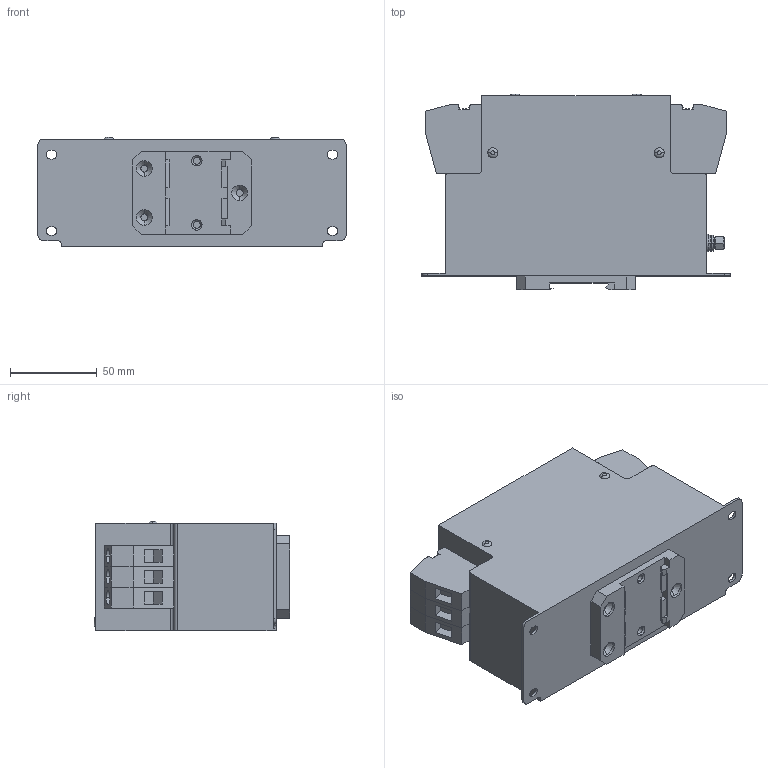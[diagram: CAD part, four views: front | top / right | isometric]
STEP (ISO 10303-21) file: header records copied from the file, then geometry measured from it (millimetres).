
FILE_DESCRIPTION (( 'STEP AP214' ), '1' );
FILE_NAME ('NF-50-BFG-CD(-LL).STEP', '2023-08-25T08:11:30', ( '' ), ( '' ), 'SwSTEP 2.0', 'SolidWorks 2021', '' );
FILE_SCHEMA (( 'AUTOMOTIVE_DESIGN' ));
Length unit declared in the file: millimetre
Products named in the file (7): hdfk_16_vp; HDFK_16; din125-1-a_5_3-140_hv_-_c4; NF-50-BFG-CD(-LL); NF-50-BFG_NF-4-50-BFG-CD; mutter_din_en_24034-m5-5; 625125
Assembly tree (12 placements, depth 3):
  NF-50-BFG-CD(-LL)
    NF-50-BFG_NF-4-50-BFG-CD
    HDFK_16  x3
      hdfk_16_vp
    hdfk_16_vp  x3
    din125-1-a_5_3-140_hv_-_c4
    625125  x2
    mutter_din_en_24034-m5-5
Bounding box: 178 x 113 x 63 mm (x, y, z)
Volume: 971593.4 mm3; surface area: 100603.6 mm2
Topology: 11 solids, 11 shells, 669 faces, 1696 edges, 1114 vertices
Faces by surface type: plane 419, cylinder 192, cone 32, bspline 18, torus 8
Entity records: 9082 total; most frequent: CARTESIAN_POINT 1380, DIRECTION 1293, ORIENTED_EDGE 1224, EDGE_CURVE 612, AXIS2_PLACEMENT_3D 447, VECTOR 399, LINE 399, VERTEX_POINT 398
